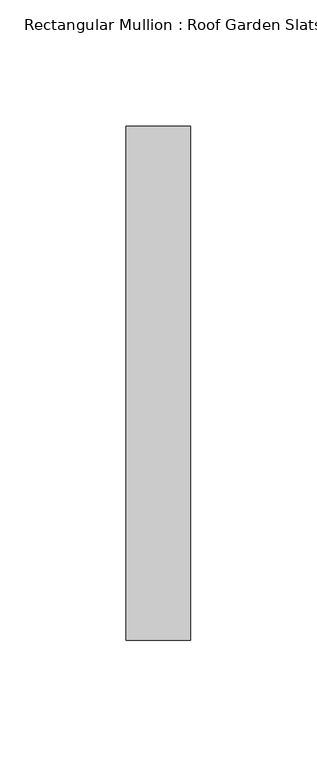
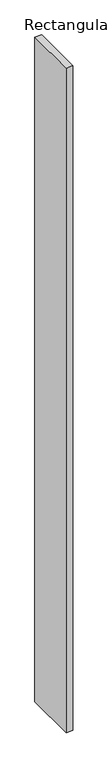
"""IFC4 building model written with IfcOpenShell, lengths in millimetres: member geometry, Rectangular Mullion : Roof Garden Slats."""

from ifc_helpers import new_model, si_unit, frame, origin, place, context, project, spatial, polyline, outline, extrude, source, transform, mapped, element, save


def rectangular_mullion_roof_garden_slats_e248ac74(model_context):
    return source(origin(), model_context, "Body", "SweptSolid", [
        extrude(outline(polyline([(12.7, 139.7), (12.7, -63.5), (-12.7, -63.5), (-12.7, 139.7), (12.7, 139.7)])), frame((0.0, 0.0, -2639.0827193), z_axis=(0.0, 0.0, 1.0), x_axis=(1.0, 0.0, 0.0)), (0.0, 0.0, 1.0), 2639.0827193),
    ])


if __name__ == "__main__":
    model = new_model("IFC4")
    model_context = context("Model", 3, world=origin())
    ifc_project = project(units=[si_unit("LENGTHUNIT", "METRE", prefix="MILLI")], contexts=[model_context])
    site = spatial("IfcSite", under=ifc_project)
    building = spatial("IfcBuilding", under=site)
    placement = place(None, origin())
    rectangular_mullion_roof_garden_slats_shape = rectangular_mullion_roof_garden_slats_e248ac74(model_context)
    element("IfcMember", 1, ObjectType="Rectangular Mullion : Roof Garden Slats", at=placement, inside=building, context=model_context, shape_type="MappedRepresentation", body=[
        mapped(rectangular_mullion_roof_garden_slats_shape, transform((0.0, 0.0, 0.0), x_axis=(1.0, 0.0, 0.0), y_axis=(0.0, 1.0, 0.0), z_axis=(0.0, 0.0, 1.0))),
    ])
    save(model, "model.ifc")
